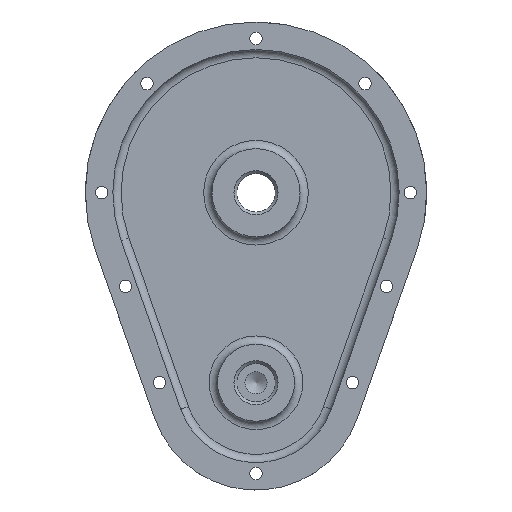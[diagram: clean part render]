
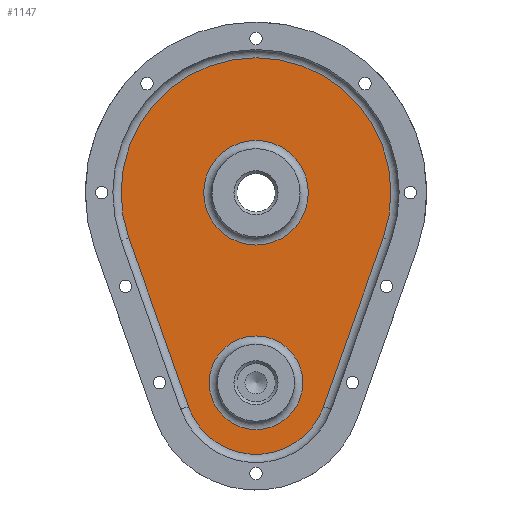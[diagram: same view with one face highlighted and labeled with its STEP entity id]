
A CAD part, top view. The second image highlights one B-rep face of the part: STEP entity #1147.
In plain terms, the highlighted planar face has unit normal (0, 0, 1).
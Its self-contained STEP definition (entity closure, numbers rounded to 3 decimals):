
#45=FACE_BOUND('',#215,.T.);
#46=FACE_BOUND('',#216,.T.);
#76=PLANE('',#1323);
#132=FACE_OUTER_BOUND('',#214,.T.);
#214=EDGE_LOOP('',(#954,#955,#956,#957));
#215=EDGE_LOOP('',(#958));
#216=EDGE_LOOP('',(#959));
#281=LINE('',#2146,#328);
#282=LINE('',#2150,#329);
#328=VECTOR('',#1673,10.);
#329=VECTOR('',#1676,10.);
#424=CIRCLE('',#1322,19.);
#425=CIRCLE('',#1324,49.);
#426=CIRCLE('',#1325,26.);
#427=CIRCLE('',#1326,17.);
#548=VERTEX_POINT('',#2140);
#549=VERTEX_POINT('',#2144);
#550=VERTEX_POINT('',#2145);
#551=VERTEX_POINT('',#2147);
#552=VERTEX_POINT('',#2149);
#553=VERTEX_POINT('',#2152);
#701=EDGE_CURVE('',#548,#548,#424,.T.);
#702=EDGE_CURVE('',#549,#550,#281,.T.);
#703=EDGE_CURVE('',#551,#549,#425,.T.);
#704=EDGE_CURVE('',#552,#551,#282,.T.);
#705=EDGE_CURVE('',#550,#552,#426,.T.);
#706=EDGE_CURVE('',#553,#553,#427,.T.);
#954=ORIENTED_EDGE('',*,*,#702,.F.);
#955=ORIENTED_EDGE('',*,*,#703,.F.);
#956=ORIENTED_EDGE('',*,*,#704,.F.);
#957=ORIENTED_EDGE('',*,*,#705,.F.);
#958=ORIENTED_EDGE('',*,*,#706,.F.);
#959=ORIENTED_EDGE('',*,*,#701,.F.);
#1147=ADVANCED_FACE('',(#132,#45,#46),#76,.T.);
#1322=AXIS2_PLACEMENT_3D('',#2142,#1669,#1670);
#1323=AXIS2_PLACEMENT_3D('',#2143,#1671,#1672);
#1324=AXIS2_PLACEMENT_3D('',#2148,#1674,#1675);
#1325=AXIS2_PLACEMENT_3D('',#2151,#1677,#1678);
#1326=AXIS2_PLACEMENT_3D('',#2153,#1679,#1680);
#1669=DIRECTION('center_axis',(0.,0.,1.));
#1670=DIRECTION('ref_axis',(-1.,0.,0.));
#1671=DIRECTION('center_axis',(0.,0.,1.));
#1672=DIRECTION('ref_axis',(1.,0.,0.));
#1673=DIRECTION('',(-0.333,-0.943,0.));
#1674=DIRECTION('center_axis',(0.,0.,-1.));
#1675=DIRECTION('ref_axis',(0.,1.,0.));
#1676=DIRECTION('',(-0.333,0.943,0.));
#1677=DIRECTION('center_axis',(0.,0.,-1.));
#1678=DIRECTION('ref_axis',(0.,-1.,0.));
#1679=DIRECTION('center_axis',(0.,0.,1.));
#1680=DIRECTION('ref_axis',(-1.,0.,0.));
#2140=CARTESIAN_POINT('',(19.,0.,5.));
#2142=CARTESIAN_POINT('Origin',(0.,0.,5.));
#2143=CARTESIAN_POINT('Origin',(0.,-21.958,
5.));
#2144=CARTESIAN_POINT('',(46.198,-16.333,5.));
#2145=CARTESIAN_POINT('',(24.513,-77.667,5.));
#2146=CARTESIAN_POINT('',(42.747,-26.093,5.));
#2147=CARTESIAN_POINT('',(-46.198,-16.333,5.));
#2148=CARTESIAN_POINT('Origin',(0.,0.,5.));
#2149=CARTESIAN_POINT('',(-24.513,-77.667,5.));
#2150=CARTESIAN_POINT('',(-31.905,-56.759,5.));
#2151=CARTESIAN_POINT('Origin',(0.,-69.,5.));
#2152=CARTESIAN_POINT('',(17.,-69.,5.));
#2153=CARTESIAN_POINT('Origin',(0.,-69.,5.));
